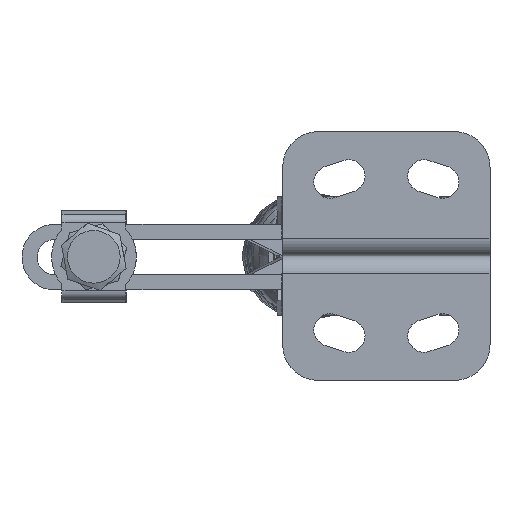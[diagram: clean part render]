
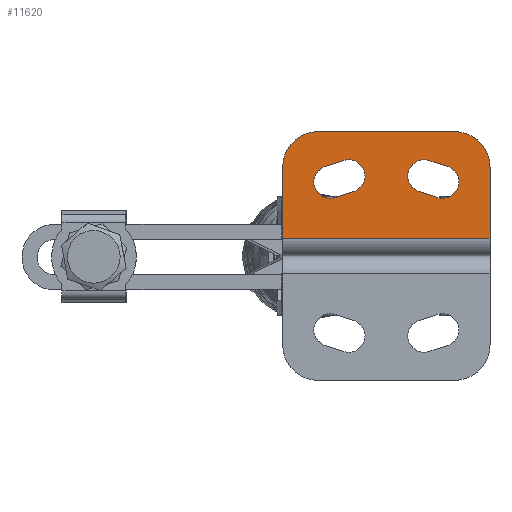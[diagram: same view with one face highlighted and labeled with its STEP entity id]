
A CAD part, front view. The second image highlights one B-rep face of the part: STEP entity #11620.
In plain terms, the highlighted planar face has unit normal (0, -1, 0).
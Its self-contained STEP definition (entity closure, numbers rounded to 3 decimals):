
#913=FACE_BOUND('',#2253,.T.);
#914=FACE_BOUND('',#2254,.T.);
#1112=PLANE('',#12330);
#1583=FACE_OUTER_BOUND('',#2252,.T.);
#2252=EDGE_LOOP('',(#9643,#9644,#9645,#9646,#9647,#9648));
#2253=EDGE_LOOP('',(#9649,#9650,#9651,#9652));
#2254=EDGE_LOOP('',(#9653,#9654,#9655,#9656));
#3147=LINE('',#26192,#4098);
#3151=LINE('',#26201,#4102);
#3152=LINE('',#26205,#4103);
#3153=LINE('',#26207,#4104);
#3154=LINE('',#26209,#4105);
#3155=LINE('',#26212,#4106);
#3156=LINE('',#26214,#4107);
#3157=LINE('',#26217,#4108);
#4098=VECTOR('',#13881,1000.);
#4102=VECTOR('',#13889,1000.);
#4103=VECTOR('',#13892,1000.);
#4104=VECTOR('',#13895,1000.);
#4105=VECTOR('',#13896,1000.);
#4106=VECTOR('',#13899,1000.);
#4107=VECTOR('',#13900,1000.);
#4108=VECTOR('',#13903,1000.);
#4492=CIRCLE('',#12302,2.75);
#4494=CIRCLE('',#12305,2.75);
#4513=CIRCLE('',#12331,6.);
#4514=CIRCLE('',#12332,6.);
#4515=CIRCLE('',#12333,2.75);
#4516=CIRCLE('',#12334,2.75);
#5380=VERTEX_POINT('',#26116);
#5381=VERTEX_POINT('',#26117);
#5384=VERTEX_POINT('',#26125);
#5385=VERTEX_POINT('',#26126);
#5412=VERTEX_POINT('',#26190);
#5413=VERTEX_POINT('',#26191);
#5415=VERTEX_POINT('',#26199);
#5416=VERTEX_POINT('',#26200);
#5417=VERTEX_POINT('',#26202);
#5418=VERTEX_POINT('',#26204);
#5419=VERTEX_POINT('',#26208);
#5420=VERTEX_POINT('',#26210);
#5421=VERTEX_POINT('',#26213);
#5422=VERTEX_POINT('',#26215);
#6875=EDGE_CURVE('',#5380,#5381,#4492,.T.);
#6879=EDGE_CURVE('',#5384,#5385,#4494,.T.);
#6910=EDGE_CURVE('',#5412,#5413,#3147,.T.);
#6915=EDGE_CURVE('',#5415,#5416,#3151,.T.);
#6916=EDGE_CURVE('',#5415,#5417,#4513,.T.);
#6917=EDGE_CURVE('',#5418,#5417,#3152,.T.);
#6918=EDGE_CURVE('',#5418,#5412,#4514,.T.);
#6919=EDGE_CURVE('',#5413,#5416,#3153,.T.);
#6920=EDGE_CURVE('',#5381,#5419,#3154,.T.);
#6921=EDGE_CURVE('',#5419,#5420,#4515,.T.);
#6922=EDGE_CURVE('',#5420,#5380,#3155,.T.);
#6923=EDGE_CURVE('',#5385,#5421,#3156,.T.);
#6924=EDGE_CURVE('',#5421,#5422,#4516,.T.);
#6925=EDGE_CURVE('',#5422,#5384,#3157,.T.);
#9643=ORIENTED_EDGE('',*,*,#6915,.F.);
#9644=ORIENTED_EDGE('',*,*,#6916,.T.);
#9645=ORIENTED_EDGE('',*,*,#6917,.F.);
#9646=ORIENTED_EDGE('',*,*,#6918,.T.);
#9647=ORIENTED_EDGE('',*,*,#6910,.T.);
#9648=ORIENTED_EDGE('',*,*,#6919,.T.);
#9649=ORIENTED_EDGE('',*,*,#6920,.T.);
#9650=ORIENTED_EDGE('',*,*,#6921,.T.);
#9651=ORIENTED_EDGE('',*,*,#6922,.T.);
#9652=ORIENTED_EDGE('',*,*,#6875,.T.);
#9653=ORIENTED_EDGE('',*,*,#6923,.T.);
#9654=ORIENTED_EDGE('',*,*,#6924,.T.);
#9655=ORIENTED_EDGE('',*,*,#6925,.T.);
#9656=ORIENTED_EDGE('',*,*,#6879,.T.);
#11620=ADVANCED_FACE('',(#1583,#913,#914),#1112,.F.);
#12302=AXIS2_PLACEMENT_3D('',#26118,#13812,#13813);
#12305=AXIS2_PLACEMENT_3D('',#26127,#13820,#13821);
#12330=AXIS2_PLACEMENT_3D('',#26198,#13887,#13888);
#12331=AXIS2_PLACEMENT_3D('',#26203,#13890,#13891);
#12332=AXIS2_PLACEMENT_3D('',#26206,#13893,#13894);
#12333=AXIS2_PLACEMENT_3D('',#26211,#13897,#13898);
#12334=AXIS2_PLACEMENT_3D('',#26216,#13901,#13902);
#13812=DIRECTION('center_axis',(0.,1.,0.));
#13813=DIRECTION('ref_axis',(0.,0.,1.));
#13820=DIRECTION('center_axis',(0.,1.,0.));
#13821=DIRECTION('ref_axis',(0.,0.,1.));
#13881=DIRECTION('',(0.,0.,-1.));
#13887=DIRECTION('center_axis',(0.,1.,0.));
#13888=DIRECTION('ref_axis',(0.,0.,1.));
#13889=DIRECTION('',(0.,0.,-1.));
#13890=DIRECTION('center_axis',(0.,-1.,0.));
#13891=DIRECTION('ref_axis',(0.,0.,1.));
#13892=DIRECTION('',(1.,0.,0.));
#13893=DIRECTION('center_axis',(0.,-1.,0.));
#13894=DIRECTION('ref_axis',(0.,0.,1.));
#13895=DIRECTION('',(1.,0.,0.));
#13896=DIRECTION('',(0.953,0.,-0.303));
#13897=DIRECTION('center_axis',(0.,1.,0.));
#13898=DIRECTION('ref_axis',(0.,0.,1.));
#13899=DIRECTION('',(-0.953,0.,0.303));
#13900=DIRECTION('',(0.953,0.,0.303));
#13901=DIRECTION('center_axis',(0.,1.,0.));
#13902=DIRECTION('ref_axis',(0.,0.,1.));
#13903=DIRECTION('',(-0.953,0.,-0.303));
#26116=CARTESIAN_POINT('',(23.018,0.,10.879));
#26117=CARTESIAN_POINT('',(24.682,0.,16.121));
#26118=CARTESIAN_POINT('Origin',(23.85,0.,13.5));
#26125=CARTESIAN_POINT('',(8.832,0.,9.879));
#26126=CARTESIAN_POINT('',(7.168,0.,15.121));
#26127=CARTESIAN_POINT('Origin',(8.,0.,12.5));
#26190=CARTESIAN_POINT('',(0.,0.,15.));
#26191=CARTESIAN_POINT('',(0.,0.,3.));
#26192=CARTESIAN_POINT('',(0.,0.,3.));
#26198=CARTESIAN_POINT('Origin',(0.,0.,3.));
#26199=CARTESIAN_POINT('',(35.,0.,15.));
#26200=CARTESIAN_POINT('',(35.,0.,3.));
#26201=CARTESIAN_POINT('',(35.,0.,3.));
#26202=CARTESIAN_POINT('',(29.,0.,21.));
#26203=CARTESIAN_POINT('Origin',(29.,0.,15.));
#26204=CARTESIAN_POINT('',(6.,0.,21.));
#26205=CARTESIAN_POINT('',(0.,0.,21.));
#26206=CARTESIAN_POINT('Origin',(6.,0.,15.));
#26207=CARTESIAN_POINT('',(0.,0.,3.));
#26208=CARTESIAN_POINT('',(27.832,0.,15.121));
#26209=CARTESIAN_POINT('',(6.044,0.,22.038));
#26210=CARTESIAN_POINT('',(26.168,0.,9.879));
#26211=CARTESIAN_POINT('Origin',(27.,0.,12.5));
#26212=CARTESIAN_POINT('',(4.38,0.,16.796));
#26213=CARTESIAN_POINT('',(10.318,0.,16.121));
#26214=CARTESIAN_POINT('',(-2.839,0.,11.944));
#26215=CARTESIAN_POINT('',(11.982,0.,10.879));
#26216=CARTESIAN_POINT('Origin',(11.15,0.,13.5));
#26217=CARTESIAN_POINT('',(-1.175,0.,6.702));
